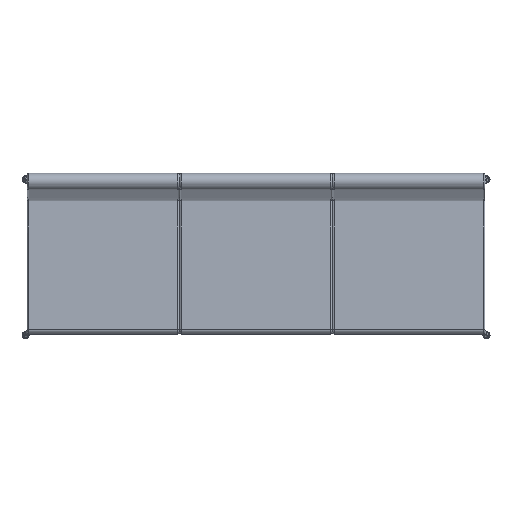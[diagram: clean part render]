
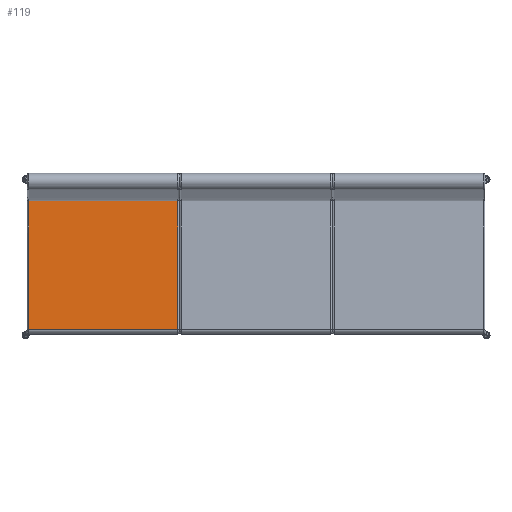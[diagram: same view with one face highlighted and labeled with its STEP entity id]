
A CAD part, top view. The second image highlights one B-rep face of the part: STEP entity #119.
In plain terms, the highlighted free-form (B-spline) face has degree [3, 1] with [4, 2] control points.
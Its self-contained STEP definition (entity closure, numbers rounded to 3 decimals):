
#119=ADVANCED_FACE('',(#346),#3073,.T.);
#346=FACE_OUTER_BOUND('',#575,.T.);
#575=EDGE_LOOP('',(#994,#995,#996,#997));
#994=ORIENTED_EDGE('',*,*,#1898,.T.);
#995=ORIENTED_EDGE('',*,*,#1861,.T.);
#996=ORIENTED_EDGE('',*,*,#1899,.F.);
#997=ORIENTED_EDGE('',*,*,#1860,.F.);
#1860=EDGE_CURVE('',#2771,#2772,#2361,.T.);
#1861=EDGE_CURVE('',#2773,#2774,#2362,.T.);
#1898=EDGE_CURVE('',#2771,#2773,#2393,.T.);
#1899=EDGE_CURVE('',#2772,#2774,#2394,.T.);
#2361=(
BOUNDED_CURVE()
B_SPLINE_CURVE(1,(#5222,#5223),.UNSPECIFIED.,.F.,.F.)
B_SPLINE_CURVE_WITH_KNOTS((2,2),(6.,504.),.UNSPECIFIED.)
CURVE()
GEOMETRIC_REPRESENTATION_ITEM()
RATIONAL_B_SPLINE_CURVE((1.,1.))
REPRESENTATION_ITEM('')
);
#2362=(
BOUNDED_CURVE()
B_SPLINE_CURVE(1,(#5224,#5225),.UNSPECIFIED.,.F.,.F.)
B_SPLINE_CURVE_WITH_KNOTS((2,2),(6.,504.),.UNSPECIFIED.)
CURVE()
GEOMETRIC_REPRESENTATION_ITEM()
RATIONAL_B_SPLINE_CURVE((1.,1.))
REPRESENTATION_ITEM('')
);
#2393=(
BOUNDED_CURVE()
B_SPLINE_CURVE(1,(#5357,#5358),.UNSPECIFIED.,.F.,.F.)
B_SPLINE_CURVE_WITH_KNOTS((2,2),(0.,432.642),
 .UNSPECIFIED.)
CURVE()
GEOMETRIC_REPRESENTATION_ITEM()
RATIONAL_B_SPLINE_CURVE((1.,1.))
REPRESENTATION_ITEM('')
);
#2394=(
BOUNDED_CURVE()
B_SPLINE_CURVE(1,(#5359,#5360),.UNSPECIFIED.,.F.,.F.)
B_SPLINE_CURVE_WITH_KNOTS((2,2),(0.,432.642),
 .UNSPECIFIED.)
CURVE()
GEOMETRIC_REPRESENTATION_ITEM()
RATIONAL_B_SPLINE_CURVE((1.,1.))
REPRESENTATION_ITEM('')
);
#2771=VERTEX_POINT('',#5142);
#2772=VERTEX_POINT('',#5143);
#2773=VERTEX_POINT('',#5144);
#2774=VERTEX_POINT('',#5145);
#3073=(
BOUNDED_SURFACE()
B_SPLINE_SURFACE(3,1,((#4752,#4753),(#4754,#4755),(#4756,#4757),(#4758,
#4759)),.UNSPECIFIED.,.F.,.F.,.F.)
B_SPLINE_SURFACE_WITH_KNOTS((4,4),(2,2),(-1381.837,-949.195),
(0.,510.),.UNSPECIFIED.)
GEOMETRIC_REPRESENTATION_ITEM()
RATIONAL_B_SPLINE_SURFACE(((1.,1.),(1.,1.),(1.,1.),(1.,1.)))
REPRESENTATION_ITEM('')
SURFACE()
);
#4752=CARTESIAN_POINT('',(-765.,190.787,428.017));
#4753=CARTESIAN_POINT('',(-255.,190.787,428.017));
#4754=CARTESIAN_POINT('',(-765.,46.739,434.942));
#4755=CARTESIAN_POINT('',(-255.,46.739,434.942));
#4756=CARTESIAN_POINT('',(-765.,-97.308,441.867));
#4757=CARTESIAN_POINT('',(-255.,-97.308,441.867));
#4758=CARTESIAN_POINT('',(-765.,-241.356,448.793));
#4759=CARTESIAN_POINT('',(-255.,-241.356,448.793));
#5142=CARTESIAN_POINT('',(-759.,190.787,428.017));
#5143=CARTESIAN_POINT('',(-261.,190.787,428.017));
#5144=CARTESIAN_POINT('',(-759.,-241.356,448.793));
#5145=CARTESIAN_POINT('',(-261.,-241.356,448.793));
#5222=CARTESIAN_POINT('',(-759.,190.787,428.017));
#5223=CARTESIAN_POINT('',(-261.,190.787,428.017));
#5224=CARTESIAN_POINT('',(-759.,-241.356,448.793));
#5225=CARTESIAN_POINT('',(-261.,-241.356,448.793));
#5357=CARTESIAN_POINT('',(-759.,190.787,428.017));
#5358=CARTESIAN_POINT('',(-759.,-241.356,448.793));
#5359=CARTESIAN_POINT('',(-261.,190.787,428.017));
#5360=CARTESIAN_POINT('',(-261.,-241.356,448.793));
